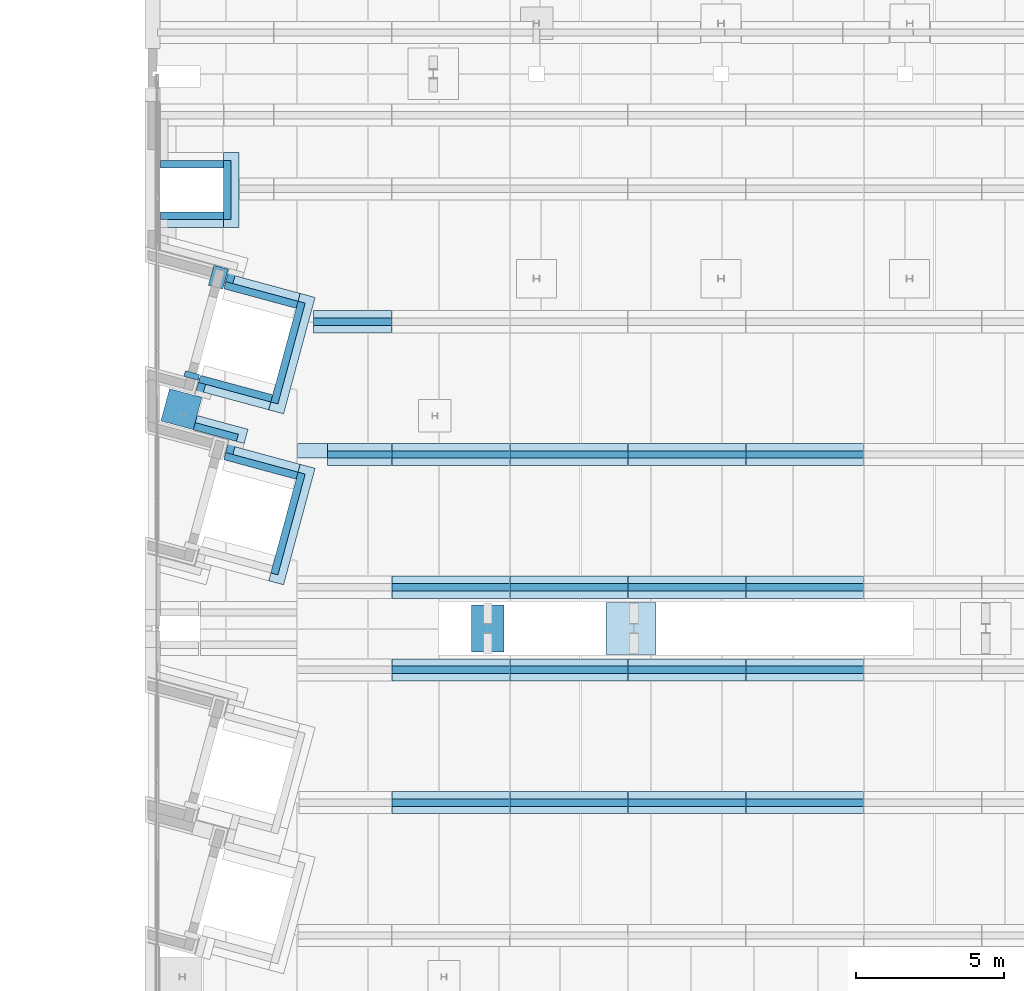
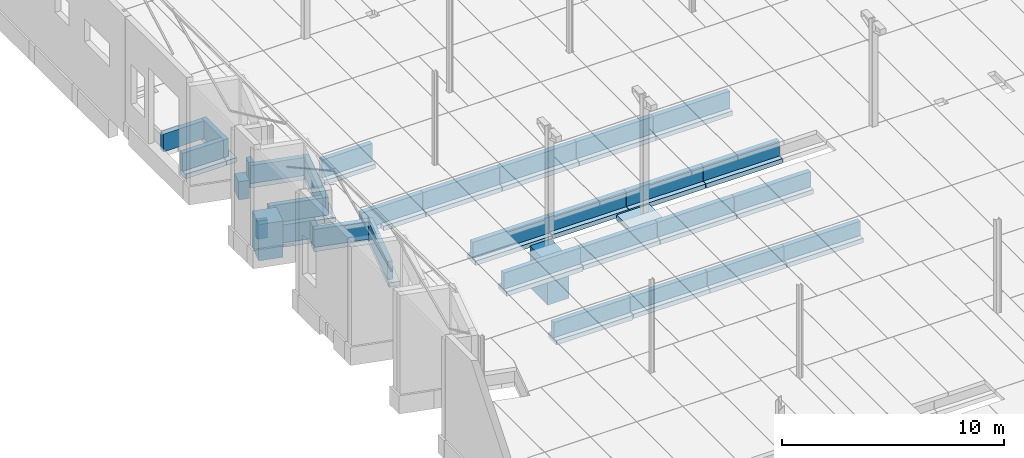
# One storey, part 6 of 59: 62 footings.
"""IFC2X3 building model written with IfcOpenShell, lengths in metres."""

import ifcopenshell
import ifcopenshell.guid

model = None  # the IFC model being written
_history = None  # IfcOwnerHistory: only IFC2X3 demands one
_inside = {}  # id of a spatial element -> (the spatial element, [elements in it])
_under = {}  # id of a project, library or spatial element -> (it, [spatial elements below it])
_declared = {}  # id of a project -> (the project, [libraries it declares])
_typed = {}  # id of a type object -> (the type object, [elements of that type])
_made_of = {}  # id of a material, layer set ... -> (it, [elements and type objects made of it])


def new_model(schema):
    """Start an empty IFC model of exactly this schema.

    Asked for "IFC4X3", IfcOpenShell would pick the latest addendum, in which some entities
    have other attributes; the version numbers below select the first issue.
    IFC2X3 requires an IfcOwnerHistory on every rooted entity: one is made here for all.
    """
    global model, _history
    if schema == "IFC4X3":
        model = ifcopenshell.file(schema_version=(4, 3, 0, 0))
    else:
        model = ifcopenshell.file(schema=schema)
    _inside.clear()
    _under.clear()
    _declared.clear()
    _typed.clear()
    _made_of.clear()
    _history = None
    if model.schema == "IFC2X3":
        org = make("IfcOrganization", Name="unknown")
        user = make(
            "IfcPersonAndOrganization",
            ThePerson=make("IfcPerson", FamilyName="unknown"),
            TheOrganization=org,
        )
        app = make(
            "IfcApplication",
            ApplicationDeveloper=org,
            Version="unknown",
            ApplicationFullName="unknown",
            ApplicationIdentifier="unknown",
        )
        _history = make(
            "IfcOwnerHistory",
            OwningUser=user,
            OwningApplication=app,
            ChangeAction="ADDED",
            CreationDate=0,
        )
    return model


def make(cls, **values):
    """One entity of the class cls with the attributes given. An attribute that is None is left unset."""
    return model.create_entity(
        cls, **{name: value for name, value in values.items() if value is not None}
    )


def entity(cls, *values):
    """Any entity or typed value of the class cls, its attributes in the order of the schema. None: left unset."""
    e = model.create_entity(cls)
    for i, value in enumerate(values):
        if value is not None:
            e[i] = value
    return e


def rooted(cls, **values):
    """An entity with a GlobalId (a new one), such as an element, a storey or a relation."""
    return make(cls, GlobalId=ifcopenshell.guid.new(), OwnerHistory=_history, **values)


def si_unit(unit_type, name, prefix=None):
    """IfcSIUnit, for example si_unit("LENGTHUNIT", "METRE", prefix="MILLI")."""
    return make("IfcSIUnit", UnitType=unit_type, Prefix=prefix, Name=name)


def converted_unit(unit_type, name, factor, base, dimensions=None, offset=None):
    """IfcConversionBasedUnit, such as the inch: factor (a typed value) times the base unit."""
    return make(
        "IfcConversionBasedUnit"
        if offset is None
        else "IfcConversionBasedUnitWithOffset",
        ConversionOffset=offset,
        Dimensions=None
        if dimensions is None
        else entity("IfcDimensionalExponents", *dimensions),
        UnitType=unit_type,
        Name=name,
        ConversionFactor=make(
            "IfcMeasureWithUnit", ValueComponent=factor, UnitComponent=base
        ),
    )


def derived_unit(unit_type, elements):
    """IfcDerivedUnit: a product of units, each with its exponent."""
    return make(
        "IfcDerivedUnit",
        Elements=[
            make("IfcDerivedUnitElement", Unit=unit, Exponent=power)
            for unit, power in elements
        ],
        UnitType=unit_type,
    )


def assignment(units):
    """IfcUnitAssignment: the units of a project."""
    return None if units is None else make("IfcUnitAssignment", Units=units)


def point(xyz):
    """IfcCartesianPoint."""
    return None if xyz is None else make("IfcCartesianPoint", Coordinates=xyz)


def direction(xyz):
    """IfcDirection."""
    return None if xyz is None else make("IfcDirection", DirectionRatios=xyz)


def frame(location, z_axis=None, x_axis=None):
    """IfcAxis2Placement3D, a coordinate frame: its origin and axes. An axis left out is left unset."""
    return make(
        "IfcAxis2Placement3D",
        Location=point(location),
        Axis=direction(z_axis),
        RefDirection=direction(x_axis),
    )


def frame_2d(location, x_axis=None):
    """IfcAxis2Placement2D, a coordinate frame in the plane: its origin and x axis."""
    return make(
        "IfcAxis2Placement2D", Location=point(location), RefDirection=direction(x_axis)
    )


def origin():
    """The frame at (0, 0, 0) with its axes left unset."""
    return frame((0.0, 0.0, 0.0))


def origin_with_axes():
    """The frame at (0, 0, 0) with the z axis (0, 0, 1) and the x axis (1, 0, 0) written out."""
    return frame((0.0, 0.0, 0.0), z_axis=(0.0, 0.0, 1.0), x_axis=(1.0, 0.0, 0.0))


def place(relative_to, where):
    """IfcLocalPlacement: puts the frame where relative to a parent placement (None: the world)."""
    return make(
        "IfcLocalPlacement", PlacementRelTo=relative_to, RelativePlacement=where
    )


def context(
    kind, dimensions, precision=None, world=None, true_north=None, identifier=None
):
    """IfcGeometricRepresentationContext, for example the 3D "Model" context."""
    return make(
        "IfcGeometricRepresentationContext",
        ContextIdentifier=identifier,
        ContextType=kind,
        CoordinateSpaceDimension=dimensions,
        Precision=precision,
        WorldCoordinateSystem=world,
        TrueNorth=true_north,
    )


def subcontext(parent, identifier, kind, view, scale=None):
    """IfcGeometricRepresentationSubContext, for example "Body" below "Model"."""
    return make(
        "IfcGeometricRepresentationSubContext",
        ContextIdentifier=identifier,
        ContextType=kind,
        ParentContext=parent,
        TargetScale=scale,
        TargetView=view,
    )


def project(units=None, contexts=None):
    """IfcProject with its units and contexts."""
    return rooted(
        "IfcProject",
        Name="project",
        RepresentationContexts=contexts,
        UnitsInContext=assignment(units),
    )


def spatial(cls, under=None, at=None, **own):
    """A site, building, storey or space (cls), placed at a placement, below another one or the project."""
    s = rooted(cls, ObjectPlacement=at, **own)
    if under is not None:
        _under.setdefault(under.id(), (under, []))[1].append(s)
    return s


def profile(cls, at=None, kind="AREA", **sizes):
    """A parametric profile (cls). Its sizes go by their IFC names, for example OverallWidth=200.0."""
    return make(cls, ProfileType=kind, Position=at, **sizes)


def rectangle(**sizes):
    """IfcRectangleProfileDef."""
    return profile("IfcRectangleProfileDef", **sizes)


def extrude(swept, where, along, depth):
    """IfcExtrudedAreaSolid: the profile swept, set in the frame where, extruded along a direction by depth."""
    return make(
        "IfcExtrudedAreaSolid",
        SweptArea=swept,
        Position=where,
        ExtrudedDirection=direction(along),
        Depth=depth,
    )


def shape(context_of_items, identifier, shape_type, items):
    """IfcShapeRepresentation: the items that make up one representation, for example the "Body"."""
    return make(
        "IfcShapeRepresentation",
        ContextOfItems=context_of_items,
        RepresentationIdentifier=identifier,
        RepresentationType=shape_type,
        Items=items,
    )


def material(Name=None, Category=None):
    """IfcMaterial."""
    return make("IfcMaterial", Name=Name, Category=Category)


def made_of(thing, what):
    """Note that an element or type object is made of a material, layer set ...; save() writes the relation."""
    if what is not None:
        _made_of.setdefault(what.id(), (what, []))[1].append(thing)
    return thing


def element(
    cls,
    number,
    at=None,
    inside=None,
    cuts=None,
    type_object=None,
    material=None,
    context=None,
    identifier="Body",
    shape_type=None,
    held_by="IfcProductDefinitionShape",
    body=None,
    shapes=None,
    **own,
):
    """One element of the class cls, such as IfcWall. Its Tag is "e" and its number.

    at: its placement. inside: the storey or other place that contains it. cuts: it is an
    opening in that element (IfcRelVoidsElement). A single representation is given by context,
    identifier, shape_type and body (its items); several are given by shapes. held_by: the class
    of the entity that holds the representations. save() writes the other relations.
    """
    e = rooted(cls, Tag="e%d" % number, ObjectPlacement=at, **own)
    if body is not None:
        shapes = [shape(context, identifier, shape_type, body)]
    if shapes is not None:
        e.Representation = make(held_by, Representations=shapes)
    if inside is not None:
        _inside.setdefault(inside.id(), (inside, []))[1].append(e)
    if cuts is not None:
        rooted(
            "IfcRelVoidsElement", RelatingBuildingElement=cuts, RelatedOpeningElement=e
        )
    if type_object is not None:
        _typed.setdefault(type_object.id(), (type_object, []))[1].append(e)
    return made_of(e, material)


def aggregate(whole, parts):
    """IfcRelAggregates: a whole, such as a stair, and the parts it consists of."""
    return rooted("IfcRelAggregates", RelatingObject=whole, RelatedObjects=parts)


def save(model, path):
    """Write the relations noted so far, then the file.

    IfcRelAggregates (storeys below a building ...), IfcRelContainedInSpatialStructure (elements
    in a storey), IfcRelDefinesByType, IfcRelAssociatesMaterial and IfcRelDeclares: one each for
    every whole, place, type object, material and project.
    """
    for whole, parts in _under.values():
        aggregate(whole, parts)
    for where, things in _inside.values():
        rooted(
            "IfcRelContainedInSpatialStructure",
            RelatedElements=things,
            RelatingStructure=where,
        )
    for kind, things in _typed.values():
        rooted("IfcRelDefinesByType", RelatedObjects=things, RelatingType=kind)
    for what, things in _made_of.values():
        rooted("IfcRelAssociatesMaterial", RelatedObjects=things, RelatingMaterial=what)
    for by, libraries in _declared.values():
        rooted("IfcRelDeclares", RelatingContext=by, RelatedDefinitions=libraries)
    model.write(path)


model = new_model("IFC2X3")

# Units and contexts
model_context = context("Model", 3, precision=1e-05, world=origin())
body_context = subcontext(model_context, "Body", "Model", "MODEL_VIEW")
ifc_project = project(units=[si_unit("LENGTHUNIT", "METRE"), si_unit("AREAUNIT", "SQUARE_METRE"), si_unit("VOLUMEUNIT", "CUBIC_METRE"), si_unit("MASSUNIT", "GRAM", prefix="KILO"), converted_unit("PLANEANGLEUNIT", "DEGREE", entity("IfcPlaneAngleMeasure", 0.0174532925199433), si_unit("PLANEANGLEUNIT", "RADIAN"), dimensions=[0, 0, 0, 0, 0, 0, 0]), derived_unit("THERMALTRANSMITTANCEUNIT", [(si_unit("POWERUNIT", "WATT"), 1), (si_unit("THERMODYNAMICTEMPERATUREUNIT", "KELVIN"), -1), (si_unit("LENGTHUNIT", "METRE"), -2)]), derived_unit("VOLUMETRICFLOWRATEUNIT", [(si_unit("LENGTHUNIT", "METRE"), 3), (converted_unit("TIMEUNIT", "hour", entity("IfcTimeMeasure", 3600.0), si_unit("TIMEUNIT", "SECOND"), dimensions=[0, 0, 1, 0, 0, 0, 0]), -1), (si_unit("LENGTHUNIT", "METRE"), -1)])], contexts=[model_context])

# Site, building, storey
site_placement = place(None, origin())
site = spatial("IfcSite", under=ifc_project, at=site_placement, Name="TWP_Speiseverteilzentrum SBW VZ II", CompositionType="ELEMENT")
building_placement = place(site_placement, origin())
building = spatial("IfcBuilding", under=site, at=building_placement, Name="Speiseverteilzentrum SBW VZ II", CompositionType="ELEMENT")
storey_placement = place(building_placement, frame((0.0, 0.0, 1.7307)))
storey = spatial("IfcBuildingStorey", under=building, at=storey_placement, Name="EG_Produktion_FFB", CompositionType="ELEMENT", Elevation=1.7307)

# Footings
ifc_material_1 = material(Name="Stahlbeton")
footing_1_placement = place(storey_placement, frame((24.8500000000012, 50.7251031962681, -1.55)))
element("IfcFooting", 1, at=footing_1_placement, inside=storey, material=ifc_material_1, Name="Stb.-Einzelfundament", ObjectType="COLUMN_FOUNDATION", PredefinedType="USERDEFINED", context=body_context, shape_type="SweptSolid", body=[
    extrude(rectangle(XDim=1.7, YDim=1.75, at=frame_2d((0.85, 0.875), x_axis=(1.0, 0.0))), origin_with_axes(), (0.0, 0.0, 1.0), 0.3),
])
ifc_material_2 = material(Name="Stahlbeton")
footing_2_placement = place(storey_placement, frame((20.3000000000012, 50.8001031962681, -3.62)))
element("IfcFooting", 2, at=footing_2_placement, inside=storey, material=ifc_material_2, Name="Stb.-Einzelfundament", ObjectType="COLUMN_FOUNDATION", PredefinedType="USERDEFINED", context=body_context, shape_type="SweptSolid", body=[
    extrude(rectangle(XDim=1.1, YDim=1.6, at=frame_2d((0.55, 0.8), x_axis=(1.0, 0.0))), origin_with_axes(), (0.0, 0.0, 1.0), 2.3),
])
ifc_material_3 = material(Name="Stahlbetonfertigteil")
footing_3_placement = place(storey_placement, frame((21.5999999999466, 45.5750000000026, -1.25)))
element("IfcFooting", 3, at=footing_3_placement, inside=storey, material=ifc_material_3, Name="Stahlbetonfertigteilfundament", PredefinedType="STRIP_FOOTING", context=body_context, shape_type="SweptSolid", body=[
    extrude(rectangle(XDim=0.25, YDim=0.78, at=frame_2d((0.125, 0.39), x_axis=(1.0, 0.0))), frame((0.0, 0.0, 0.0), z_axis=(1.0, 0.0, 0.0), x_axis=(0.0, 1.0, 0.0)), (0.0, 0.0, 1.0), 3.98),
])
ifc_material_4 = material(Name="Stahlbetonfertigteil")
footing_4_placement = place(storey_placement, frame((21.5999999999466, 45.3250000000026, -1.5)))
element("IfcFooting", 4, at=footing_4_placement, inside=storey, material=ifc_material_4, Name="Stahlbetonfertigteilfundament", PredefinedType="STRIP_FOOTING", context=body_context, shape_type="SweptSolid", body=[
    extrude(rectangle(XDim=0.75, YDim=0.25, at=frame_2d((0.375, 0.125), x_axis=(1.0, 0.0))), frame((0.0, 0.0, 0.0), z_axis=(1.0, 0.0, 0.0), x_axis=(0.0, 1.0, 0.0)), (0.0, 0.0, 1.0), 3.98),
])
ifc_material_5 = material(Name="Stahlbetonfertigteil")
footing_5_placement = place(storey_placement, frame((25.5999999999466, 45.5750000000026, -1.25)))
element("IfcFooting", 5, at=footing_5_placement, inside=storey, material=ifc_material_5, Name="Stahlbetonfertigteilfundament", PredefinedType="STRIP_FOOTING", context=body_context, shape_type="SweptSolid", body=[
    extrude(rectangle(XDim=0.25, YDim=0.78, at=frame_2d((0.125, 0.39), x_axis=(1.0, 0.0))), frame((0.0, 0.0, 0.0), z_axis=(1.0, 0.0, 0.0), x_axis=(0.0, 1.0, 0.0)), (0.0, 0.0, 1.0), 3.98),
])
ifc_material_6 = material(Name="Stahlbetonfertigteil")
footing_6_placement = place(storey_placement, frame((25.5999999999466, 45.3250000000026, -1.5)))
element("IfcFooting", 6, at=footing_6_placement, inside=storey, material=ifc_material_6, Name="Stahlbetonfertigteilfundament", PredefinedType="STRIP_FOOTING", context=body_context, shape_type="SweptSolid", body=[
    extrude(rectangle(XDim=0.75, YDim=0.25, at=frame_2d((0.375, 0.125), x_axis=(1.0, 0.0))), frame((0.0, 0.0, 0.0), z_axis=(1.0, 0.0, 0.0), x_axis=(0.0, 1.0, 0.0)), (0.0, 0.0, 1.0), 3.98),
])
ifc_material_7 = material(Name="Stahlbetonfertigteil")
footing_7_placement = place(storey_placement, frame((29.5999999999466, 45.5750000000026, -1.25)))
element("IfcFooting", 7, at=footing_7_placement, inside=storey, material=ifc_material_7, Name="Stahlbetonfertigteilfundament", PredefinedType="STRIP_FOOTING", context=body_context, shape_type="SweptSolid", body=[
    extrude(rectangle(XDim=0.25, YDim=0.78, at=frame_2d((0.125, 0.39), x_axis=(1.0, 0.0))), frame((0.0, 0.0, 0.0), z_axis=(1.0, 0.0, 0.0), x_axis=(0.0, 1.0, 0.0)), (0.0, 0.0, 1.0), 3.98),
])
ifc_material_8 = material(Name="Stahlbetonfertigteil")
footing_8_placement = place(storey_placement, frame((29.5999999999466, 45.3250000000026, -1.5)))
element("IfcFooting", 8, at=footing_8_placement, inside=storey, material=ifc_material_8, Name="Stahlbetonfertigteilfundament", PredefinedType="STRIP_FOOTING", context=body_context, shape_type="SweptSolid", body=[
    extrude(rectangle(XDim=0.75, YDim=0.25, at=frame_2d((0.375, 0.125), x_axis=(1.0, 0.0))), frame((0.0, 0.0, 0.0), z_axis=(1.0, 0.0, 0.0), x_axis=(0.0, 1.0, 0.0)), (0.0, 0.0, 1.0), 3.98),
])
ifc_material_9 = material(Name="Stahlbetonfertigteil")
footing_9_placement = place(storey_placement, frame((21.5999999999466, 50.0750000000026, -1.3)))
element("IfcFooting", 9, at=footing_9_placement, inside=storey, material=ifc_material_9, Name="Stahlbetonfertigteilfundament", PredefinedType="STRIP_FOOTING", context=body_context, shape_type="SweptSolid", body=[
    extrude(rectangle(XDim=0.25, YDim=0.83, at=frame_2d((0.125, 0.415), x_axis=(1.0, 0.0))), frame((0.0, 0.0, 0.0), z_axis=(1.0, 0.0, 0.0), x_axis=(0.0, 1.0, 0.0)), (0.0, 0.0, 1.0), 3.98),
])
ifc_material_10 = material(Name="Stahlbetonfertigteil")
footing_10_placement = place(storey_placement, frame((25.5999999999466, 50.0750000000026, -1.3)))
element("IfcFooting", 10, at=footing_10_placement, inside=storey, material=ifc_material_10, Name="Stahlbetonfertigteilfundament", PredefinedType="STRIP_FOOTING", context=body_context, shape_type="SweptSolid", body=[
    extrude(rectangle(XDim=0.25, YDim=0.83, at=frame_2d((0.125, 0.415), x_axis=(1.0, 0.0))), frame((0.0, 0.0, 0.0), z_axis=(1.0, 0.0, 0.0), x_axis=(0.0, 1.0, 0.0)), (0.0, 0.0, 1.0), 3.98),
])
ifc_material_11 = material(Name="Stahlbetonfertigteil")
footing_11_placement = place(storey_placement, frame((25.5999999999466, 49.8250000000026, -1.55)))
element("IfcFooting", 11, at=footing_11_placement, inside=storey, material=ifc_material_11, Name="Stahlbetonfertigteilfundament", PredefinedType="STRIP_FOOTING", context=body_context, shape_type="SweptSolid", body=[
    extrude(rectangle(XDim=0.75, YDim=0.25, at=frame_2d((0.375, 0.125), x_axis=(1.0, 0.0))), frame((0.0, 0.0, 0.0), z_axis=(1.0, 0.0, 0.0), x_axis=(0.0, 1.0, 0.0)), (0.0, 0.0, 1.0), 3.98),
])
ifc_material_12 = material(Name="Stahlbetonfertigteil")
footing_12_placement = place(storey_placement, frame((21.5999999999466, 52.8750000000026, -1.3)))
element("IfcFooting", 12, at=footing_12_placement, inside=storey, material=ifc_material_12, Name="Stahlbetonfertigteilfundament", PredefinedType="STRIP_FOOTING", context=body_context, shape_type="SweptSolid", body=[
    extrude(rectangle(XDim=0.25, YDim=0.83, at=frame_2d((0.125, 0.415), x_axis=(1.0, 0.0))), frame((0.0, 0.0, 0.0), z_axis=(1.0, 0.0, 0.0), x_axis=(0.0, 1.0, 0.0)), (0.0, 0.0, 1.0), 3.98),
])
ifc_material_13 = material(Name="Stahlbetonfertigteil")
footing_13_placement = place(storey_placement, frame((25.5999999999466, 52.8750000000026, -1.3)))
element("IfcFooting", 13, at=footing_13_placement, inside=storey, material=ifc_material_13, Name="Stahlbetonfertigteilfundament", PredefinedType="STRIP_FOOTING", context=body_context, shape_type="SweptSolid", body=[
    extrude(rectangle(XDim=0.25, YDim=0.83, at=frame_2d((0.125, 0.415), x_axis=(1.0, 0.0))), frame((0.0, 0.0, 0.0), z_axis=(1.0, 0.0, 0.0), x_axis=(0.0, 1.0, 0.0)), (0.0, 0.0, 1.0), 3.98),
])
ifc_material_14 = material(Name="Stahlbetonfertigteil")
footing_14_placement = place(storey_placement, frame((25.5999999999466, 52.6250000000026, -1.55)))
element("IfcFooting", 14, at=footing_14_placement, inside=storey, material=ifc_material_14, Name="Stahlbetonfertigteilfundament", PredefinedType="STRIP_FOOTING", context=body_context, shape_type="SweptSolid", body=[
    extrude(rectangle(XDim=0.75, YDim=0.25, at=frame_2d((0.375, 0.125), x_axis=(1.0, 0.0))), frame((0.0, 0.0, 0.0), z_axis=(1.0, 0.0, 0.0), x_axis=(0.0, 1.0, 0.0)), (0.0, 0.0, 1.0), 3.98),
])
ifc_material_15 = material(Name="Stahlbetonfertigteil")
footing_15_placement = place(storey_placement, frame((25.5999999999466, 57.3750000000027, -1.4)))
element("IfcFooting", 15, at=footing_15_placement, inside=storey, material=ifc_material_15, Name="Stahlbetonfertigteilfundament", PredefinedType="STRIP_FOOTING", context=body_context, shape_type="SweptSolid", body=[
    extrude(rectangle(XDim=0.25, YDim=0.93, at=frame_2d((0.125, 0.465), x_axis=(1.0, 0.0))), frame((0.0, 0.0, 0.0), z_axis=(1.0, 0.0, 0.0), x_axis=(0.0, 1.0, 0.0)), (0.0, 0.0, 1.0), 3.98),
])
ifc_material_16 = material(Name="Stahlbetonfertigteil")
footing_16_placement = place(storey_placement, frame((21.5999999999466, 57.3750000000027, -1.4)))
element("IfcFooting", 16, at=footing_16_placement, inside=storey, material=ifc_material_16, Name="Stahlbetonfertigteilfundament", PredefinedType="STRIP_FOOTING", context=body_context, shape_type="SweptSolid", body=[
    extrude(rectangle(XDim=0.25, YDim=0.93, at=frame_2d((0.125, 0.465), x_axis=(1.0, 0.0))), frame((0.0, 0.0, 0.0), z_axis=(1.0, 0.0, 0.0), x_axis=(0.0, 1.0, 0.0)), (0.0, 0.0, 1.0), 3.98),
])
ifc_material_17 = material(Name="Stahlbetonfertigteil")
footing_17_placement = place(storey_placement, frame((25.5999999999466, 57.1250000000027, -1.65)))
element("IfcFooting", 17, at=footing_17_placement, inside=storey, material=ifc_material_17, Name="Stahlbetonfertigteilfundament", PredefinedType="STRIP_FOOTING", context=body_context, shape_type="SweptSolid", body=[
    extrude(rectangle(XDim=0.75, YDim=0.25, at=frame_2d((0.375, 0.125), x_axis=(1.0, 0.0))), frame((0.0, 0.0, 0.0), z_axis=(1.0, 0.0, 0.0), x_axis=(0.0, 1.0, 0.0)), (0.0, 0.0, 1.0), 3.98),
])
ifc_material_18 = material(Name="Stahlbetonfertigteil")
footing_18_placement = place(storey_placement, frame((21.5999999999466, 57.1250000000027, -1.65)))
element("IfcFooting", 18, at=footing_18_placement, inside=storey, material=ifc_material_18, Name="Stahlbetonfertigteilfundament", PredefinedType="STRIP_FOOTING", context=body_context, shape_type="SweptSolid", body=[
    extrude(rectangle(XDim=0.75, YDim=0.25, at=frame_2d((0.375, 0.125), x_axis=(1.0, 0.0))), frame((0.0, 0.0, 0.0), z_axis=(1.0, 0.0, 0.0), x_axis=(0.0, 1.0, 0.0)), (0.0, 0.0, 1.0), 3.98),
])
ifc_material_19 = material(Name="Stahlbetonfertigteil")
footing_19_placement = place(storey_placement, frame((29.5999999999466, 57.3750000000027, -1.4)))
element("IfcFooting", 19, at=footing_19_placement, inside=storey, material=ifc_material_19, Name="Stahlbetonfertigteilfundament", PredefinedType="STRIP_FOOTING", context=body_context, shape_type="SweptSolid", body=[
    extrude(rectangle(XDim=0.25, YDim=0.93, at=frame_2d((0.125, 0.465), x_axis=(1.0, 0.0))), frame((0.0, 0.0, 0.0), z_axis=(1.0, 0.0, 0.0), x_axis=(0.0, 1.0, 0.0)), (0.0, 0.0, 1.0), 3.98),
])
ifc_material_20 = material(Name="Stahlbetonfertigteil")
footing_20_placement = place(storey_placement, frame((29.5999999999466, 57.1250000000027, -1.65)))
element("IfcFooting", 20, at=footing_20_placement, inside=storey, material=ifc_material_20, Name="Stahlbetonfertigteilfundament", PredefinedType="STRIP_FOOTING", context=body_context, shape_type="SweptSolid", body=[
    extrude(rectangle(XDim=0.75, YDim=0.25, at=frame_2d((0.375, 0.125), x_axis=(1.0, 0.0))), frame((0.0, 0.0, 0.0), z_axis=(1.0, 0.0, 0.0), x_axis=(0.0, 1.0, 0.0)), (0.0, 0.0, 1.0), 3.98),
])
ifc_material_21 = material(Name="Stahlbetonfertigteil")
footing_21_placement = place(storey_placement, frame((17.5999999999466, 57.1250000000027, -1.65)))
element("IfcFooting", 21, at=footing_21_placement, inside=storey, material=ifc_material_21, Name="Stahlbetonfertigteilfundament", PredefinedType="STRIP_FOOTING", context=body_context, shape_type="SweptSolid", body=[
    extrude(rectangle(XDim=0.75, YDim=0.25, at=frame_2d((0.375, 0.125), x_axis=(1.0, 0.0))), frame((0.0, 0.0, 0.0), z_axis=(1.0, 0.0, 0.0), x_axis=(0.0, 1.0, 0.0)), (0.0, 0.0, 1.0), 3.98),
])
ifc_material_22 = material(Name="Stahlbetonfertigteil")
footing_22_placement = place(storey_placement, frame((17.5999999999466, 57.3750000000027, -1.4)))
element("IfcFooting", 22, at=footing_22_placement, inside=storey, material=ifc_material_22, Name="Stahlbetonfertigteilfundament", PredefinedType="STRIP_FOOTING", context=body_context, shape_type="SweptSolid", body=[
    extrude(rectangle(XDim=0.25, YDim=0.93, at=frame_2d((0.125, 0.465), x_axis=(1.0, 0.0))), frame((0.0, 0.0, 0.0), z_axis=(1.0, 0.0, 0.0), x_axis=(0.0, 1.0, 0.0)), (0.0, 0.0, 1.0), 3.98),
])
ifc_material_23 = material(Name="Stahlbetonfertigteil")
footing_23_placement = place(storey_placement, frame((17.5999999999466, 45.3250000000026, -1.55)))
element("IfcFooting", 23, at=footing_23_placement, inside=storey, material=ifc_material_23, Name="Stahlbetonfertigteilfundament", PredefinedType="STRIP_FOOTING", context=body_context, shape_type="SweptSolid", body=[
    extrude(rectangle(XDim=0.75, YDim=0.25, at=frame_2d((0.375, 0.125), x_axis=(1.0, 0.0))), frame((0.0, 0.0, 0.0), z_axis=(1.0, 0.0, 0.0), x_axis=(0.0, 1.0, 0.0)), (0.0, 0.0, 1.0), 3.98),
])
ifc_material_24 = material(Name="Stahlbetonfertigteil")
footing_24_placement = place(storey_placement, frame((17.5999999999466, 45.5750000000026, -1.3)))
element("IfcFooting", 24, at=footing_24_placement, inside=storey, material=ifc_material_24, Name="Stahlbetonfertigteilfundament", PredefinedType="STRIP_FOOTING", context=body_context, shape_type="SweptSolid", body=[
    extrude(rectangle(XDim=0.25, YDim=0.83, at=frame_2d((0.125, 0.415), x_axis=(1.0, 0.0))), frame((0.0, 0.0, 0.0), z_axis=(1.0, 0.0, 0.0), x_axis=(0.0, 1.0, 0.0)), (0.0, 0.0, 1.0), 3.98),
])
ifc_material_25 = material(Name="Stahlbetonfertigteil")
footing_25_placement = place(storey_placement, frame((17.5999999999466, 52.8750000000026, -1.35)))
element("IfcFooting", 25, at=footing_25_placement, inside=storey, material=ifc_material_25, Name="Stahlbetonfertigteilfundament", PredefinedType="STRIP_FOOTING", context=body_context, shape_type="SweptSolid", body=[
    extrude(rectangle(XDim=0.25, YDim=0.88, at=frame_2d((0.125, 0.44), x_axis=(1.0, 0.0))), frame((0.0, 0.0, 0.0), z_axis=(1.0, 0.0, 0.0), x_axis=(0.0, 1.0, 0.0)), (0.0, 0.0, 1.0), 3.98),
])
ifc_material_26 = material(Name="Stahlbetonfertigteil")
footing_26_placement = place(storey_placement, frame((17.5999999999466, 50.0750000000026, -1.35)))
element("IfcFooting", 26, at=footing_26_placement, inside=storey, material=ifc_material_26, Name="Stahlbetonfertigteilfundament", PredefinedType="STRIP_FOOTING", context=body_context, shape_type="SweptSolid", body=[
    extrude(rectangle(XDim=0.25, YDim=0.88, at=frame_2d((0.125, 0.44), x_axis=(1.0, 0.0))), frame((0.0, 0.0, 0.0), z_axis=(1.0, 0.0, 0.0), x_axis=(0.0, 1.0, 0.0)), (0.0, 0.0, 1.0), 3.98),
])
ifc_material_27 = material(Name="Stahlbetonfertigteil")
footing_27_placement = place(storey_placement, frame((17.5999999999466, 49.8250000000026, -1.6)))
element("IfcFooting", 27, at=footing_27_placement, inside=storey, material=ifc_material_27, Name="Stahlbetonfertigteilfundament", PredefinedType="STRIP_FOOTING", context=body_context, shape_type="SweptSolid", body=[
    extrude(rectangle(XDim=0.75, YDim=0.25, at=frame_2d((0.375, 0.125), x_axis=(1.0, 0.0))), frame((0.0, 0.0, 0.0), z_axis=(1.0, 0.0, 0.0), x_axis=(0.0, 1.0, 0.0)), (0.0, 0.0, 1.0), 3.98),
])
ifc_material_28 = material(Name="Stahlbetonfertigteil")
footing_28_placement = place(storey_placement, frame((17.5999999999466, 52.6250000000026, -1.6)))
element("IfcFooting", 28, at=footing_28_placement, inside=storey, material=ifc_material_28, Name="Stahlbetonfertigteilfundament", PredefinedType="STRIP_FOOTING", context=body_context, shape_type="SweptSolid", body=[
    extrude(rectangle(XDim=0.75, YDim=0.25, at=frame_2d((0.375, 0.125), x_axis=(1.0, 0.0))), frame((0.0, 0.0, 0.0), z_axis=(1.0, 0.0, 0.0), x_axis=(0.0, 1.0, 0.0)), (0.0, 0.0, 1.0), 3.98),
])
ifc_material_29 = material(Name="Stahlbetonfertigteil")
footing_29_placement = place(storey_placement, frame((21.5999999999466, 52.6250000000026, -1.55)))
element("IfcFooting", 29, at=footing_29_placement, inside=storey, material=ifc_material_29, Name="Stahlbetonfertigteilfundament", PredefinedType="STRIP_FOOTING", context=body_context, shape_type="SweptSolid", body=[
    extrude(rectangle(XDim=0.75, YDim=0.25, at=frame_2d((0.375, 0.125), x_axis=(1.0, 0.0))), frame((0.0, 0.0, 0.0), z_axis=(1.0, 0.0, 0.0), x_axis=(0.0, 1.0, 0.0)), (0.0, 0.0, 1.0), 3.98),
])
ifc_material_30 = material(Name="Stahlbetonfertigteil")
footing_30_placement = place(storey_placement, frame((21.5999999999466, 49.8250000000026, -1.55)))
element("IfcFooting", 30, at=footing_30_placement, inside=storey, material=ifc_material_30, Name="Stahlbetonfertigteilfundament", PredefinedType="STRIP_FOOTING", context=body_context, shape_type="SweptSolid", body=[
    extrude(rectangle(XDim=0.75, YDim=0.25, at=frame_2d((0.375, 0.125), x_axis=(1.0, 0.0))), frame((0.0, 0.0, 0.0), z_axis=(1.0, 0.0, 0.0), x_axis=(0.0, 1.0, 0.0)), (0.0, 0.0, 1.0), 3.98),
])
ifc_material_31 = material(Name="Stahlbetonfertigteil")
footing_31_placement = place(storey_placement, frame((29.5999999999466, 52.6250000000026, -1.55)))
element("IfcFooting", 31, at=footing_31_placement, inside=storey, material=ifc_material_31, Name="Stahlbetonfertigteilfundament", PredefinedType="STRIP_FOOTING", context=body_context, shape_type="SweptSolid", body=[
    extrude(rectangle(XDim=0.75, YDim=0.25, at=frame_2d((0.375, 0.125), x_axis=(1.0, 0.0))), frame((0.0, 0.0, 0.0), z_axis=(1.0, 0.0, 0.0), x_axis=(0.0, 1.0, 0.0)), (0.0, 0.0, 1.0), 3.98),
])
ifc_material_32 = material(Name="Stahlbetonfertigteil")
footing_32_placement = place(storey_placement, frame((29.5999999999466, 52.8750000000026, -1.3)))
element("IfcFooting", 32, at=footing_32_placement, inside=storey, material=ifc_material_32, Name="Stahlbetonfertigteilfundament", PredefinedType="STRIP_FOOTING", context=body_context, shape_type="SweptSolid", body=[
    extrude(rectangle(XDim=0.25, YDim=0.83, at=frame_2d((0.125, 0.415), x_axis=(1.0, 0.0))), frame((0.0, 0.0, 0.0), z_axis=(1.0, 0.0, 0.0), x_axis=(0.0, 1.0, 0.0)), (0.0, 0.0, 1.0), 3.98),
])
ifc_material_33 = material(Name="Stahlbetonfertigteil")
footing_33_placement = place(storey_placement, frame((29.5999999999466, 49.8250000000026, -1.55)))
element("IfcFooting", 33, at=footing_33_placement, inside=storey, material=ifc_material_33, Name="Stahlbetonfertigteilfundament", PredefinedType="STRIP_FOOTING", context=body_context, shape_type="SweptSolid", body=[
    extrude(rectangle(XDim=0.75, YDim=0.25, at=frame_2d((0.375, 0.125), x_axis=(1.0, 0.0))), frame((0.0, 0.0, 0.0), z_axis=(1.0, 0.0, 0.0), x_axis=(0.0, 1.0, 0.0)), (0.0, 0.0, 1.0), 3.98),
])
ifc_material_34 = material(Name="Stahlbetonfertigteil")
footing_34_placement = place(storey_placement, frame((29.5999999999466, 50.0750000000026, -1.3)))
element("IfcFooting", 34, at=footing_34_placement, inside=storey, material=ifc_material_34, Name="Stahlbetonfertigteilfundament", PredefinedType="STRIP_FOOTING", context=body_context, shape_type="SweptSolid", body=[
    extrude(rectangle(XDim=0.25, YDim=0.83, at=frame_2d((0.125, 0.415), x_axis=(1.0, 0.0))), frame((0.0, 0.0, 0.0), z_axis=(1.0, 0.0, 0.0), x_axis=(0.0, 1.0, 0.0)), (0.0, 0.0, 1.0), 3.98),
])
ifc_material_35 = material(Name="Stahlbetonfertigteil")
footing_35_placement = place(storey_placement, frame((14.9348489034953, 61.8750000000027, -1.45)))
element("IfcFooting", 35, at=footing_35_placement, inside=storey, material=ifc_material_35, Name="Stahlbetonfertigteilfundament", PredefinedType="STRIP_FOOTING", context=body_context, shape_type="SweptSolid", body=[
    extrude(rectangle(XDim=0.25, YDim=0.98, at=frame_2d((0.125, 0.49), x_axis=(1.0, 0.0))), frame((0.0, 0.0, 0.0), z_axis=(1.0, 0.0, 0.0), x_axis=(0.0, 1.0, 0.0)), (0.0, 0.0, 1.0), 2.6451510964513),
])
ifc_material_36 = material(Name="Stahlbetonfertigteil")
footing_36_placement = place(storey_placement, frame((14.9348489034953, 61.6250000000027, -1.7)))
element("IfcFooting", 36, at=footing_36_placement, inside=storey, material=ifc_material_36, Name="Stahlbetonfertigteilfundament", PredefinedType="STRIP_FOOTING", context=body_context, shape_type="SweptSolid", body=[
    extrude(rectangle(XDim=0.75, YDim=0.25, at=frame_2d((0.375, 0.125), x_axis=(1.0, 0.0))), frame((0.0, 0.0, 0.0), z_axis=(1.0, 0.0, 0.0), x_axis=(0.0, 1.0, 0.0)), (0.0, 0.0, 1.0), 2.6451510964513),
])
ifc_material_37 = material(Name="Stahlbetonfertigteil")
footing_37_placement = place(storey_placement, frame((15.4099999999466, 57.1250000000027, -1.65)))
element("IfcFooting", 37, at=footing_37_placement, inside=storey, material=ifc_material_37, Name="Stahlbetonfertigteilfundament", PredefinedType="STRIP_FOOTING", context=body_context, shape_type="SweptSolid", body=[
    extrude(rectangle(XDim=0.75, YDim=0.25, at=frame_2d((0.375, 0.125), x_axis=(1.0, 0.0))), frame((0.0, 0.0, 0.0), z_axis=(1.0, 0.0, 0.0), x_axis=(0.0, 1.0, 0.0)), (0.0, 0.0, 1.0), 2.17),
])
ifc_material_38 = material(Name="Stahlbeton")
footing_38_placement = place(storey_placement, frame((9.76999999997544, 58.3385423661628, -2.25)))
element("IfcFooting", 38, at=footing_38_placement, inside=storey, material=ifc_material_38, Name="Stb.-Einzelfundament", ObjectType="COLUMN_FOUNDATION", PredefinedType="USERDEFINED", context=body_context, shape_type="SweptSolid", body=[
    extrude(rectangle(XDim=1.13862638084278, YDim=1.13287726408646, at=frame_2d((0.697426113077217, 0.398204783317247), x_axis=(0.965335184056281, -0.26101337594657))), frame((0.0, 0.297196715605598, 0.0), z_axis=(0.0, 0.0, 1.0), x_axis=(1.0, 0.0, 0.0)), (0.0, 0.0, 1.0), 2.0),
])
ifc_material_39 = material(Name="Stahlbeton")
footing_39_placement = place(storey_placement, frame((11.5679965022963, 63.9114951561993, -2.25), z_axis=(0.0, 0.0, 1.0), x_axis=(-0.261013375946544, -0.965335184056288, 0.0)))
element("IfcFooting", 39, at=footing_39_placement, inside=storey, material=ifc_material_39, Name="Stb.-Streifenfundament", PredefinedType="STRIP_FOOTING", context=body_context, shape_type="SweptSolid", body=[
    extrude(rectangle(XDim=0.499999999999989, YDim=1.0, at=frame_2d((0.249999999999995, 0.5), x_axis=(1.0, 0.0))), frame((0.0, 0.0, 0.0), z_axis=(1.0, 0.0, 0.0), x_axis=(0.0, 1.0, 0.0)), (0.0, 0.0, 1.0), 0.699999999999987),
])
ifc_material_40 = material(Name="Stahlbetonfertigteil")
footing_40_placement = place(storey_placement, frame((14.3999999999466, 57.3750000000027, -1.65)))
element("IfcFooting", 40, at=footing_40_placement, inside=storey, material=ifc_material_40, Name="Stahlbetonfertigteilfundament", PredefinedType="STRIP_FOOTING", context=body_context, shape_type="SweptSolid", body=[
    extrude(rectangle(XDim=0.500000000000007, YDim=0.25, at=frame_2d((0.250000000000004, 0.125), x_axis=(1.0, 0.0))), frame((0.0, 0.0, 0.0), z_axis=(1.0, 0.0, 0.0), x_axis=(0.0, 1.0, 0.0)), (0.0, 0.0, 1.0), 1.01000000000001),
])
ifc_material_41 = material(Name="Stahlbetonfertigteil")
footing_41_placement = place(storey_placement, frame((14.3999999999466, 57.3750000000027, -1.4)))
element("IfcFooting", 41, at=footing_41_placement, inside=storey, material=ifc_material_41, Name="Stahlbetonfertigteilfundament", PredefinedType="STRIP_FOOTING", context=body_context, shape_type="SweptSolid", body=[
    extrude(rectangle(XDim=0.25, YDim=0.93, at=frame_2d((0.125, 0.465), x_axis=(1.0, 0.0))), frame((0.0, 0.0, 0.0), z_axis=(1.0, 0.0, 0.0), x_axis=(0.0, 1.0, 0.0)), (0.0, 0.0, 1.0), 3.18000000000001),
])
ifc_material_42 = material(Name="Stahlbeton")
footing_42_placement = place(storey_placement, frame((10.6024305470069, 60.3404337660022, -2.25), z_axis=(0.0, 0.0, 1.0), x_axis=(-0.261013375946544, -0.965335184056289, 0.0)))
element("IfcFooting", 42, at=footing_42_placement, inside=storey, material=ifc_material_42, Name="Stb.-Streifenfundament", PredefinedType="STRIP_FOOTING", context=body_context, shape_type="SweptSolid", body=[
    extrude(rectangle(XDim=0.5, YDim=1.0, at=frame_2d((0.25, 0.5), x_axis=(1.0, 0.0))), frame((0.0, 0.0, 0.0), z_axis=(1.0, 0.0, 0.0), x_axis=(0.0, 1.0, 0.0)), (0.0, 0.0, 1.0), 0.200000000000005),
])
ifc_material_43 = material(Name="Stahlbeton")
footing_43_placement = place(storey_placement, frame((11.8899999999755, 65.7162960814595, -1.7), z_axis=(0.0, 0.0, 1.0), x_axis=(-1.0, 0.0, 0.0)))
element("IfcFooting", 43, at=footing_43_placement, inside=storey, material=ifc_material_43, Name="Stb.-Fundament", PredefinedType="STRIP_FOOTING", context=body_context, shape_type="SweptSolid", body=[
    extrude(rectangle(XDim=0.525000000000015, YDim=0.25, at=frame_2d((0.262500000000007, 0.125), x_axis=(1.0, 0.0))), frame((0.0, 0.0, 0.0), z_axis=(1.0, 0.0, 0.0), x_axis=(0.0, 1.0, 0.0)), (0.0, 0.0, 1.0), 2.12999999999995),
])
ifc_material_44 = material(Name="Stahlbeton")
footing_44_placement = place(storey_placement, frame((9.75999999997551, 65.4662960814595, -1.45)))
element("IfcFooting", 44, at=footing_44_placement, inside=storey, material=ifc_material_44, Name="Stb.-Fundament", PredefinedType="STRIP_FOOTING", context=body_context, shape_type="SweptSolid", body=[
    extrude(rectangle(XDim=0.249999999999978, YDim=0.98, at=frame_2d((0.124999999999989, 0.49), x_axis=(1.0, 0.0))), frame((0.0, 0.0, 0.0), z_axis=(1.0, 0.0, 0.0), x_axis=(0.0, 1.0, 0.0)), (0.0, 0.0, 1.0), 2.12999999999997),
])
ifc_material_45 = material(Name="Stahlbeton")
footing_45_placement = place(storey_placement, frame((11.8899999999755, 67.4662960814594, -1.45), z_axis=(0.0, 0.0, 1.0), x_axis=(-1.0, 0.0, 0.0)))
element("IfcFooting", 45, at=footing_45_placement, inside=storey, material=ifc_material_45, Name="Stb.-Fundament", PredefinedType="STRIP_FOOTING", context=body_context, shape_type="SweptSolid", body=[
    extrude(rectangle(XDim=0.249999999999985, YDim=0.98, at=frame_2d((0.124999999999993, 0.49), x_axis=(1.0, 0.0))), frame((0.0, 0.0, 0.0), z_axis=(1.0, 0.0, 0.0), x_axis=(0.0, 1.0, 0.0)), (0.0, 0.0, 1.0), 2.12999999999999),
])
ifc_material_46 = material(Name="Stahlbeton")
footing_46_placement = place(storey_placement, frame((11.8899999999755, 67.7412960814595, -1.7), z_axis=(0.0, 0.0, 1.0), x_axis=(0.0, -1.0, 0.0)))
element("IfcFooting", 46, at=footing_46_placement, inside=storey, material=ifc_material_46, Name="Stb.-Fundament", PredefinedType="STRIP_FOOTING", context=body_context, shape_type="SweptSolid", body=[
    extrude(rectangle(XDim=0.525, YDim=0.25, at=frame_2d((0.2625, 0.125), x_axis=(1.0, 0.0))), frame((0.0, 0.0, 0.0), z_axis=(1.0, 0.0, 0.0), x_axis=(0.0, 1.0, 0.0)), (0.0, 0.0, 1.0), 2.55),
])
ifc_material_47 = material(Name="Stahlbeton")
footing_47_placement = place(storey_placement, frame((12.1399999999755, 65.4662960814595, -1.45), z_axis=(0.0, 0.0, 1.0), x_axis=(-1.45519152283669e-14, 1.0, 0.0)))
element("IfcFooting", 47, at=footing_47_placement, inside=storey, material=ifc_material_47, Name="Stb.-Fundament", PredefinedType="STRIP_FOOTING", context=body_context, shape_type="SweptSolid", body=[
    extrude(rectangle(XDim=0.249999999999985, YDim=0.98, at=frame_2d((0.124999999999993, 0.49), x_axis=(1.0, 0.0))), frame((0.0, 0.0, 0.0), z_axis=(1.0, 0.0, 0.0), x_axis=(0.0, 1.0, 0.0)), (0.0, 0.0, 1.0), 1.99999999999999),
])
ifc_material_48 = material(Name="Stahlbeton")
footing_48_placement = place(storey_placement, frame((12.2087221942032, 63.2928105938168, -1.45), z_axis=(0.0, 0.0, 1.0), x_axis=(0.261013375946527, 0.965335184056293, 0.0)))
element("IfcFooting", 48, at=footing_48_placement, inside=storey, material=ifc_material_48, Name="Stb.-Fundament", PredefinedType="STRIP_FOOTING", context=body_context, shape_type="SweptSolid", body=[
    extrude(rectangle(XDim=0.249999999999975, YDim=0.98, at=frame_2d((0.124999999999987, 0.49), x_axis=(1.0, 0.0))), frame((0.0, 0.0, 0.0), z_axis=(1.0, 0.0, 0.0), x_axis=(0.0, 1.0, 0.0)), (0.0, 0.0, 1.0), 0.459999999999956),
])
ifc_material_49 = material(Name="Stahlbeton")
footing_49_placement = place(storey_placement, frame((11.9021350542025, 63.1167301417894, -1.7), z_axis=(0.0, 0.0, 1.0), x_axis=(0.965335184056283, -0.261013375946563, 0.0)))
element("IfcFooting", 49, at=footing_49_placement, inside=storey, material=ifc_material_49, Name="Stb.-Fundament", PredefinedType="STRIP_FOOTING", context=body_context, shape_type="SweptSolid", body=[
    extrude(rectangle(XDim=0.524999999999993, YDim=0.25, at=frame_2d((0.262499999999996, 0.125), x_axis=(1.0, 0.0))), frame((0.0, 0.0, 0.0), z_axis=(1.0, 0.0, 0.0), x_axis=(0.0, 1.0, 0.0)), (0.0, 0.0, 1.0), 2.53999999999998),
])
ifc_material_50 = material(Name="Stahlbeton")
footing_50_placement = place(storey_placement, frame((14.4193397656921, 62.6950899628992, -1.45), z_axis=(0.0, 0.0, 1.0), x_axis=(-0.965335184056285, 0.261013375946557, 0.0)))
element("IfcFooting", 50, at=footing_50_placement, inside=storey, material=ifc_material_50, Name="Stb.-Fundament", PredefinedType="STRIP_FOOTING", context=body_context, shape_type="SweptSolid", body=[
    extrude(rectangle(XDim=0.249999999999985, YDim=0.98, at=frame_2d((0.124999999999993, 0.49), x_axis=(1.0, 0.0))), frame((0.0, 0.0, 0.0), z_axis=(1.0, 0.0, 0.0), x_axis=(0.0, 1.0, 0.0)), (0.0, 0.0, 1.0), 2.54),
])
ifc_material_51 = material(Name="Stahlbeton")
footing_51_placement = place(storey_placement, frame((13.7368697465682, 59.2132288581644, -1.45), z_axis=(0.0, 0.0, 1.0), x_axis=(0.261013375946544, 0.965335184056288, 0.0)))
element("IfcFooting", 51, at=footing_51_placement, inside=storey, material=ifc_material_51, Name="Stb.-Fundament", PredefinedType="STRIP_FOOTING", context=body_context, shape_type="SweptSolid", body=[
    extrude(rectangle(XDim=0.249999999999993, YDim=0.98, at=frame_2d((0.124999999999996, 0.49), x_axis=(1.0, 0.0))), frame((0.0, 0.0, 0.0), z_axis=(1.0, 0.0, 0.0), x_axis=(0.0, 1.0, 0.0)), (0.0, 0.0, 1.0), 3.53929683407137),
])
ifc_material_52 = material(Name="Stahlbeton")
footing_52_placement = place(storey_placement, frame((14.4911184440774, 62.9605571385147, -1.7), z_axis=(0.0, 0.0, 1.0), x_axis=(-0.26101337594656, -0.965335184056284, 0.0)))
element("IfcFooting", 52, at=footing_52_placement, inside=storey, material=ifc_material_52, Name="Stb.-Fundament", PredefinedType="STRIP_FOOTING", context=body_context, shape_type="SweptSolid", body=[
    extrude(rectangle(XDim=0.525000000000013, YDim=0.25, at=frame_2d((0.262500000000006, 0.125), x_axis=(1.0, 0.0))), frame((0.0, 0.0, 0.0), z_axis=(1.0, 0.0, 0.0), x_axis=(0.0, 1.0, 0.0)), (0.0, 0.0, 1.0), 4.0892968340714),
])
ifc_material_53 = material(Name="Stahlbeton")
footing_53_placement = place(storey_placement, frame((11.9021350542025, 57.3237432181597, -1.7), z_axis=(0.0, 0.0, 1.0), x_axis=(0.965335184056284, -0.26101337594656, 0.0)))
element("IfcFooting", 53, at=footing_53_placement, inside=storey, material=ifc_material_53, Name="Stb.-Fundament", PredefinedType="STRIP_FOOTING", context=body_context, shape_type="SweptSolid", body=[
    extrude(rectangle(XDim=0.524999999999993, YDim=0.25, at=frame_2d((0.262499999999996, 0.125), x_axis=(1.0, 0.0))), frame((0.0, 0.0, 0.0), z_axis=(1.0, 0.0, 0.0), x_axis=(0.0, 1.0, 0.0)), (0.0, 0.0, 1.0), 2.53999999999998),
])
ifc_material_54 = material(Name="Stahlbeton")
footing_54_placement = place(storey_placement, frame((14.4193397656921, 56.9021030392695, -1.45), z_axis=(0.0, 0.0, 1.0), x_axis=(-0.965335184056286, 0.261013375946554, 0.0)))
element("IfcFooting", 54, at=footing_54_placement, inside=storey, material=ifc_material_54, Name="Stb.-Fundament", PredefinedType="STRIP_FOOTING", context=body_context, shape_type="SweptSolid", body=[
    extrude(rectangle(XDim=0.249999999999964, YDim=0.98, at=frame_2d((0.124999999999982, 0.49), x_axis=(1.0, 0.0))), frame((0.0, 0.0, 0.0), z_axis=(1.0, 0.0, 0.0), x_axis=(0.0, 1.0, 0.0)), (0.0, 0.0, 1.0), 2.54),
])
ifc_material_55 = material(Name="Stahlbeton")
footing_55_placement = place(storey_placement, frame((13.7368697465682, 53.4202419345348, -1.45), z_axis=(0.0, 0.0, 1.0), x_axis=(0.261013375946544, 0.965335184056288, 0.0)))
element("IfcFooting", 55, at=footing_55_placement, inside=storey, material=ifc_material_55, Name="Stb.-Fundament", PredefinedType="STRIP_FOOTING", context=body_context, shape_type="SweptSolid", body=[
    extrude(rectangle(XDim=0.249999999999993, YDim=0.98, at=frame_2d((0.124999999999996, 0.49), x_axis=(1.0, 0.0))), frame((0.0, 0.0, 0.0), z_axis=(1.0, 0.0, 0.0), x_axis=(0.0, 1.0, 0.0)), (0.0, 0.0, 1.0), 3.53929683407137),
])
ifc_material_56 = material(Name="Stahlbeton")
footing_56_placement = place(storey_placement, frame((14.4911184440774, 57.167570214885, -1.7), z_axis=(0.0, 0.0, 1.0), x_axis=(-0.26101337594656, -0.965335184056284, 0.0)))
element("IfcFooting", 56, at=footing_56_placement, inside=storey, material=ifc_material_56, Name="Stb.-Fundament", PredefinedType="STRIP_FOOTING", context=body_context, shape_type="SweptSolid", body=[
    extrude(rectangle(XDim=0.525000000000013, YDim=0.25, at=frame_2d((0.262500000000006, 0.125), x_axis=(1.0, 0.0))), frame((0.0, 0.0, 0.0), z_axis=(1.0, 0.0, 0.0), x_axis=(0.0, 1.0, 0.0)), (0.0, 0.0, 1.0), 4.0892968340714),
])
ifc_material_57 = material(Name="Stahlbeton")
footing_57_placement = place(storey_placement, frame((12.3940416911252, 58.185211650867, -1.45), z_axis=(0.0, 0.0, 1.0), x_axis=(-0.965335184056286, 0.261013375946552, 0.0)))
element("IfcFooting", 57, at=footing_57_placement, inside=storey, material=ifc_material_57, Name="Stb.-Fundament", PredefinedType="STRIP_FOOTING", context=body_context, shape_type="SweptSolid", body=[
    extrude(rectangle(XDim=0.249999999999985, YDim=0.98, at=frame_2d((0.124999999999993, 0.49), x_axis=(1.0, 0.0))), frame((0.0, 0.0, 0.0), z_axis=(1.0, 0.0, 0.0), x_axis=(0.0, 1.0, 0.0)), (0.0, 0.0, 1.0), 1.51204707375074),
])
ifc_material_58 = material(Name="Stahlbeton")
footing_58_placement = place(storey_placement, frame((12.2087221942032, 57.4998236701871, -1.45), z_axis=(0.0, 0.0, 1.0), x_axis=(0.261013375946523, 0.965335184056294, 0.0)))
element("IfcFooting", 58, at=footing_58_placement, inside=storey, material=ifc_material_58, Name="Stb.-Fundament", PredefinedType="STRIP_FOOTING", context=body_context, shape_type="SweptSolid", body=[
    extrude(rectangle(XDim=0.24999999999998, YDim=0.98, at=frame_2d((0.12499999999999, 0.49), x_axis=(1.0, 0.0))), frame((0.0, 0.0, 0.0), z_axis=(1.0, 0.0, 0.0), x_axis=(0.0, 1.0, 0.0)), (0.0, 0.0, 1.0), 0.459999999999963),
])
ifc_material_59 = material(Name="Stahlbeton")
footing_59_placement = place(storey_placement, frame((11.1648522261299, 59.4321486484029, -1.45), z_axis=(0.0, 0.0, 1.0), x_axis=(0.261013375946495, 0.965335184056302, 0.0)))
element("IfcFooting", 59, at=footing_59_placement, inside=storey, material=ifc_material_59, Name="Stb.-Fundament", PredefinedType="STRIP_FOOTING", context=body_context, shape_type="SweptSolid", body=[
    extrude(rectangle(XDim=0.249999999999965, YDim=0.98, at=frame_2d((0.124999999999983, 0.49), x_axis=(1.0, 0.0))), frame((0.0, 0.0, 0.0), z_axis=(1.0, 0.0, 0.0), x_axis=(0.0, 1.0, 0.0)), (0.0, 0.0, 1.0), 0.45999999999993),
])
ifc_material_60 = material(Name="Stahlbeton")
footing_60_placement = place(storey_placement, frame((12.7247622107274, 58.3547667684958, -1.7), z_axis=(0.0, 0.0, 1.0), x_axis=(-0.96533518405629, 0.261013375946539, 0.0)))
element("IfcFooting", 60, at=footing_60_placement, inside=storey, material=ifc_material_60, Name="Stb.-Fundament", PredefinedType="STRIP_FOOTING", context=body_context, shape_type="SweptSolid", body=[
    extrude(rectangle(XDim=0.5, YDim=0.25, at=frame_2d((0.25, 0.125), x_axis=(1.0, 0.0))), frame((0.0, 0.0, 0.0), z_axis=(1.0, 0.0, 0.0), x_axis=(0.0, 1.0, 0.0)), (0.0, 0.0, 1.0), 1.78704707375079),
])
ifc_material_61 = material(Name="Stahlbeton")
footing_61_placement = place(storey_placement, frame((11.0435845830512, 59.9414561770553, -1.45), z_axis=(0.0, 0.0, 1.0), x_axis=(0.965335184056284, -0.26101337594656, 0.0)))
element("IfcFooting", 61, at=footing_61_placement, inside=storey, material=ifc_material_61, Name="Stb.-Fundament", PredefinedType="STRIP_FOOTING", context=body_context, shape_type="SweptSolid", body=[
    extrude(rectangle(XDim=0.249999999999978, YDim=0.98, at=frame_2d((0.124999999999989, 0.49), x_axis=(1.0, 0.0))), frame((0.0, 0.0, 0.0), z_axis=(1.0, 0.0, 0.0), x_axis=(0.0, 1.0, 0.0)), (0.0, 0.0, 1.0), 2.53999999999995),
])
ifc_material_62 = material(Name="Stahlbeton")
footing_62_placement = place(storey_placement, frame((13.5607892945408, 59.5198159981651, -1.7), z_axis=(0.0, 0.0, 1.0), x_axis=(-0.965335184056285, 0.261013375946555, 0.0)))
element("IfcFooting", 62, at=footing_62_placement, inside=storey, material=ifc_material_62, Name="Stb.-Fundament", PredefinedType="STRIP_FOOTING", context=body_context, shape_type="SweptSolid", body=[
    extrude(rectangle(XDim=0.525000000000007, YDim=0.25, at=frame_2d((0.262500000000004, 0.125), x_axis=(1.0, 0.0))), frame((0.0, 0.0, 0.0), z_axis=(1.0, 0.0, 0.0), x_axis=(0.0, 1.0, 0.0)), (0.0, 0.0, 1.0), 2.53999999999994),
])

save(model, "model.ifc")
